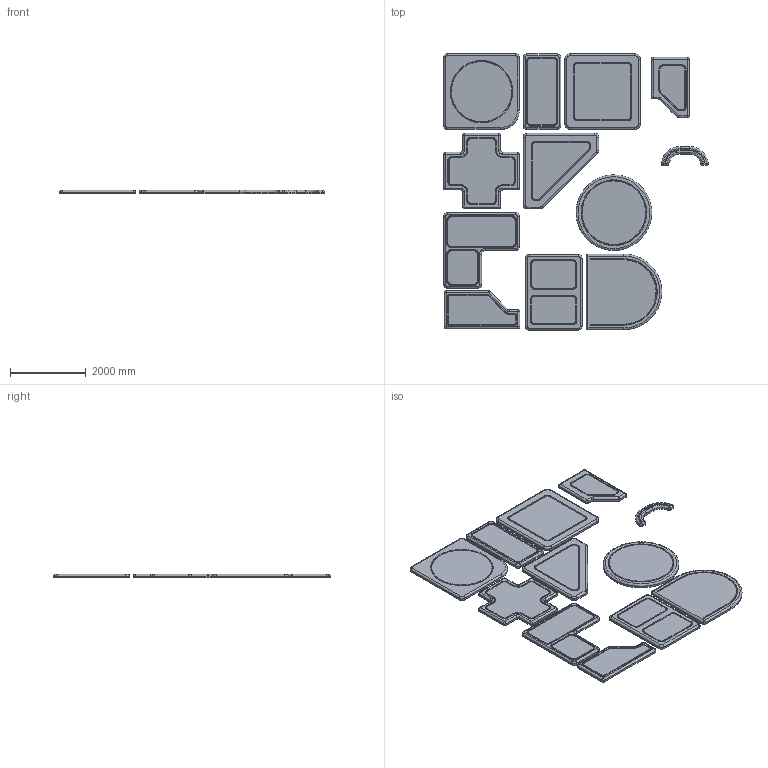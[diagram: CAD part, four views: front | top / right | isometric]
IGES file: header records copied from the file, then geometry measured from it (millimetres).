
Global section: file name: FloorPanelSet v21; native system: unknown; preprocessor: unknown; author: unknown; organization: unknown; date: 20220526.144027; units: centimetre
Bounding box: 6997.14 x 7306.17 x 100 mm (x, y, z)
Volume: 3136500774.6 mm3; surface area: 70951103.9 mm2
Topology: 12 solids, 12 shells, 592 faces, 1421 edges, 879 vertices
Faces by surface type: bspline 592
